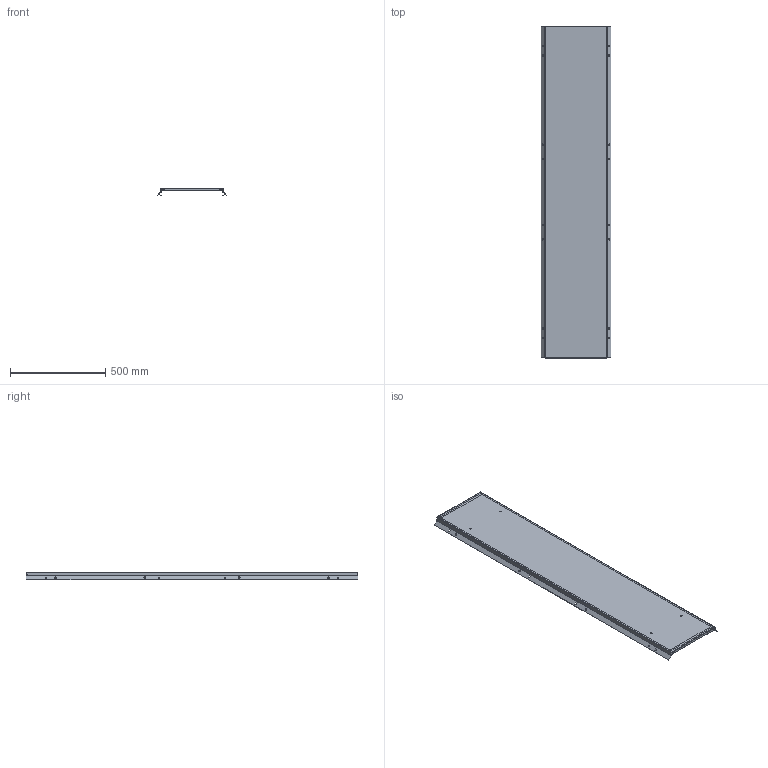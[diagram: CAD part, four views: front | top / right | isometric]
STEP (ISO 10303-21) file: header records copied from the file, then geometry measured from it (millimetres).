
FILE_DESCRIPTION (( 'STEP AP203' ), '1' );
FILE_NAME ('MA1.200.040618.10.00 AleSta-PR184 Ïàíåëü çàäíÿÿ, äëÿ øêàôîâ ALESTA, 1800 x 400.STEP', '2025-02-19T15:07:24', ( '' ), ( '' ), 'SwSTEP 2.0', 'SolidWorks 2021', '' );
FILE_SCHEMA (( 'CONFIG_CONTROL_DESIGN' ));
Length unit declared in the file: millimetre
Products named in the file (6): MA1.200.060620.11.00 Ïàíåëü çàäíÿÿ, äëÿ øêàôîâ AleSta, 2000x600_1800å400; Øïèëüêà Ì6õ12_˜¯¨«ìª  Œ6å12; Âèíò ñàìîíàðåçàþùèé ñ ïîòàéíîé ãîëîâêîé Ì5x16 DIN 7500 M TORX, êëàññ ïðî÷íîñòè 8.8, îöèíêîâàííàÿ ñòàëü_Œ5å16; Óïëîòíèòåëü ïàíåëè íèæíåé_  ‚=1800; MA1.200.060620.11.01 Ïîëîòíî çàäíåé ïàíåëè 2000õ600_1800å400; MA1.200.040618.10.00 AleSta-PR184  Ïàíåëü çàäíÿÿ, äëÿ øêàôîâ ALESTA, 1800 x 400
Assembly tree (15 placements, depth 3):
  MA1.200.040618.10.00 AleSta-PR184  Ïàíåëü çàäíÿÿ, äëÿ øêàôîâ ALESTA, 1800 x 400
    MA1.200.060620.11.00 Ïàíåëü çàäíÿÿ, äëÿ øêàôîâ AleSta, 2000x600_1800å400
      MA1.200.060620.11.01 Ïîëîòíî çàäíåé ïàíåëè 2000õ600_1800å400
      Óïëîòíèòåëü ïàíåëè íèæíåé_  ‚=1800
      Øïèëüêà Ì6õ12_˜¯¨«ìª  Œ6å12  x4
    Âèíò ñàìîíàðåçàþùèé ñ ïîòàéíîé ãîëîâêîé Ì5x16 DIN 7500 M TORX, êëàññ ïðî÷íîñòè 8.8, îöèíêîâàííàÿ ñòàëü_Œ5å16  x8
Bounding box: 365.31 x 1745 x 41.7 mm (x, y, z)
Volume: 999526.1 mm3; surface area: 1615255.5 mm2
Topology: 14 solids, 14 shells, 544 faces, 1352 edges, 864 vertices
Faces by surface type: cylinder 304, plane 184, cone 40, bspline 8, torus 8
Entity records: 7885 total; most frequent: CARTESIAN_POINT 1623, DIRECTION 1165, ORIENTED_EDGE 1074, EDGE_CURVE 537, AXIS2_PLACEMENT_3D 424, VERTEX_POINT 332, VECTOR 317, LINE 317
